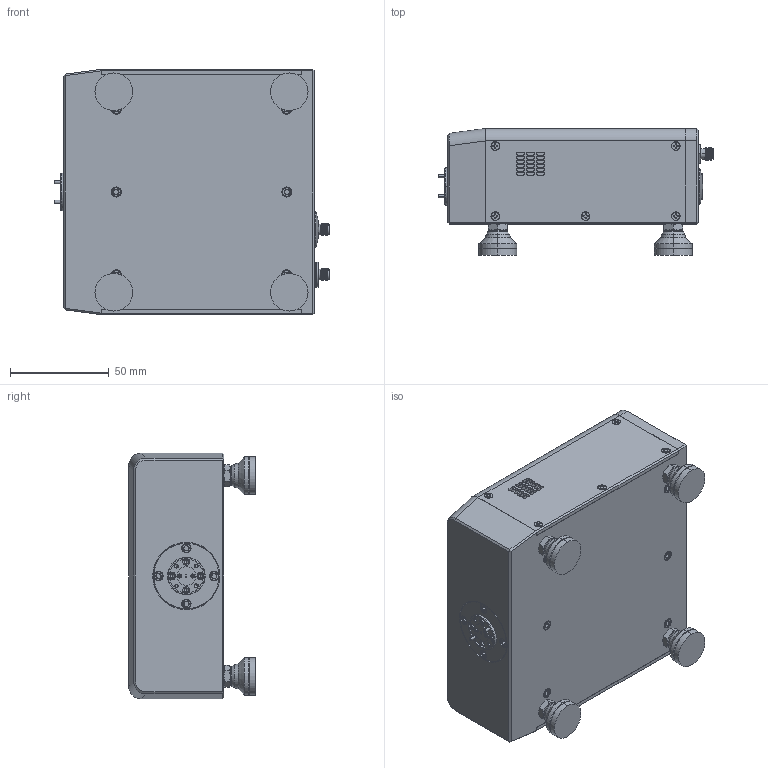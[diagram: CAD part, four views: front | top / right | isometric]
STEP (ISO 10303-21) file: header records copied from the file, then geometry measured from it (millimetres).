
FILE_DESCRIPTION (( 'STEP AP214' ), '1' );
FILE_NAME ('TC-G-A, Defeatured.STEP', '2024-05-08T17:33:23', ( '' ), ( '' ), 'SwSTEP 2.0', 'SolidWorks 2021', '' );
FILE_SCHEMA (( 'AUTOMOTIVE_DESIGN' ));
Length unit declared in the file: inch
Products named in the file (1): TC-G-A, Defeatured
Bounding box: 139.21 x 64.14 x 124.32 mm (x, y, z)
Volume: 762293 mm3; surface area: 107472.6 mm2
Topology: 11 solids, 12 shells, 1617 faces, 4207 edges, 2677 vertices
Faces by surface type: plane 764, cylinder 480, cone 348, sphere 17, bspline 6, torus 2
Entity records: 70495 total; most frequent: CARTESIAN_POINT 12107, ORIENTED_EDGE 8298, DIRECTION 7928, EDGE_CURVE 4149, AXIS2_PLACEMENT_3D 2885, VERTEX_POINT 2652, VECTOR 2158, LINE 2158
